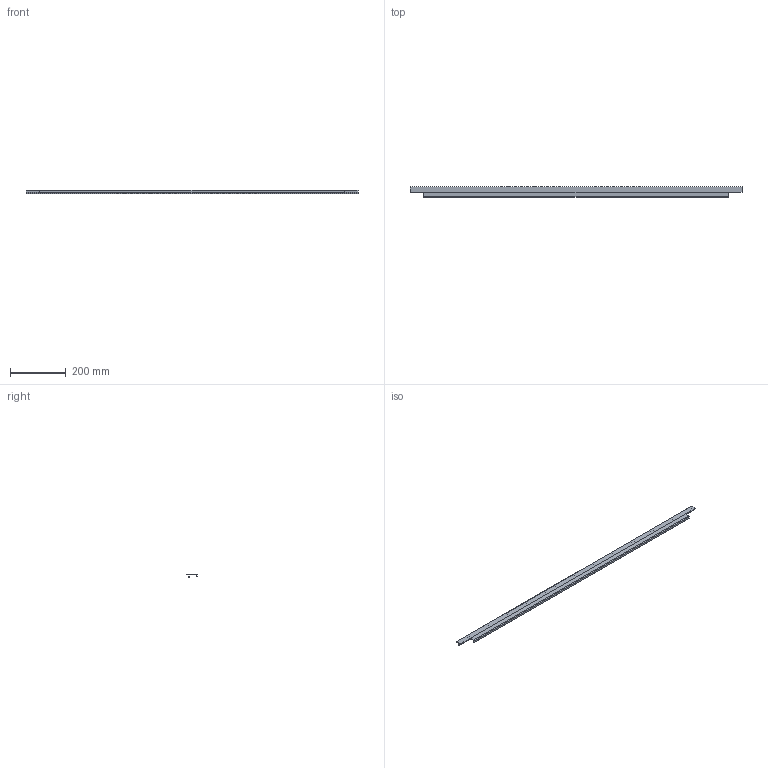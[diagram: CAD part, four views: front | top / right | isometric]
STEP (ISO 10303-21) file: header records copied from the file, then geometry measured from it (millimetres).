
FILE_DESCRIPTION( ( '' ), '1' );
FILE_NAME( 'C:/Documents and Settings/Nikhil/Desktop/Nik/Done/9105826.stp', '2013-10-23T08:17:23', ( '' ), ( '' ), ' ', ' ', ' ' );
FILE_SCHEMA( ( 'automotive_design' ) );
Length unit declared in the file: millimetre
Products named in the file (1): 1
Bounding box: 1195 x 39 x 14 mm (x, y, z)
Volume: 178909.3 mm3; surface area: 135533 mm2
Topology: 1 solids, 1 shells, 40 faces, 112 edges, 74 vertices
Faces by surface type: plane 30, cylinder 10
Entity records: 2554 total; most frequent: STYLED_ITEM 227, PRESENTATION_STYLE_ASSIGNMENT 227, CARTESIAN_POINT 227, COLOUR_RGB 227, ORIENTED_EDGE 224, DIRECTION 214, EDGE_CURVE 112, CURVE_STYLE 112
